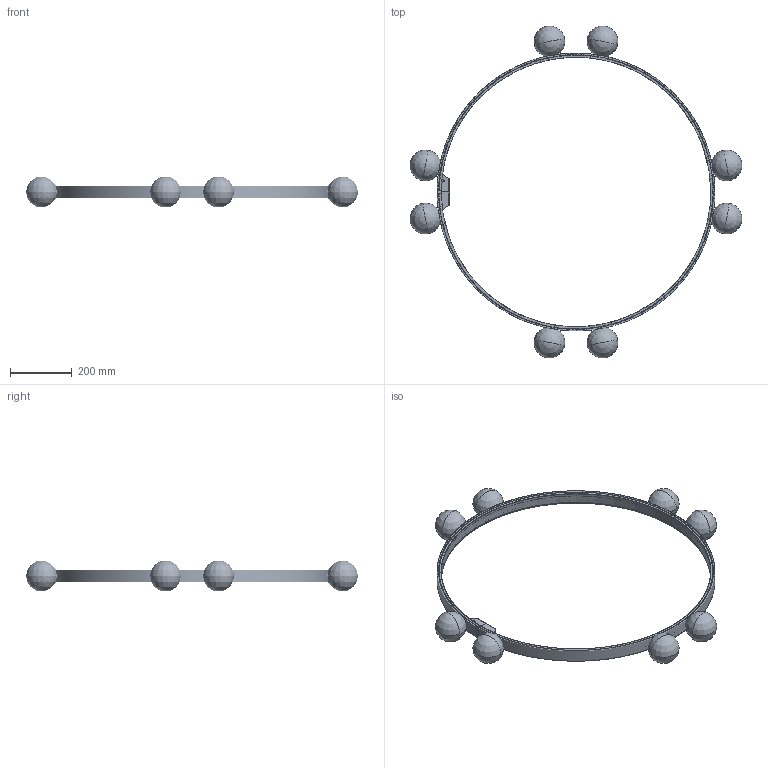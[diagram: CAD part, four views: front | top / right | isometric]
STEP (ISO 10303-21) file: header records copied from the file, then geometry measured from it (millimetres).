
FILE_DESCRIPTION(/* description */ (''),/* implementation_level */ '2;1');
FILE_NAME(/* name */ 'M106__~2',/* time_stamp */ '2024-07-03T12:25:16+02:00',/* author */ (''),/* organization */ (''),/* preprocessor_version */ 'ST-DEVELOPER v16.5',/* originating_system */ '',/* authorisation */ '');
FILE_SCHEMA (('AUTOMOTIVE_DESIGN'));
Length unit declared in the file: centimetre
Products named in the file (1): Document
Bounding box: 1076.05 x 1076.05 x 100 mm (x, y, z)
Volume: 6155287.5 mm3; surface area: 1205037.5 mm2
Topology: 29 solids, 29 shells, 634 faces, 1515 edges, 900 vertices
Faces by surface type: bspline 458, plane 176
Entity records: 29405 total; most frequent: CARTESIAN_POINT 20575, ORIENTED_EDGE 2896, EDGE_CURVE 1448, VERTEX_POINT 899, EDGE_LOOP 751, ADVANCED_FACE 634, FACE_OUTER_BOUND 634, B_SPLINE_CURVE_WITH_KNOTS 602
